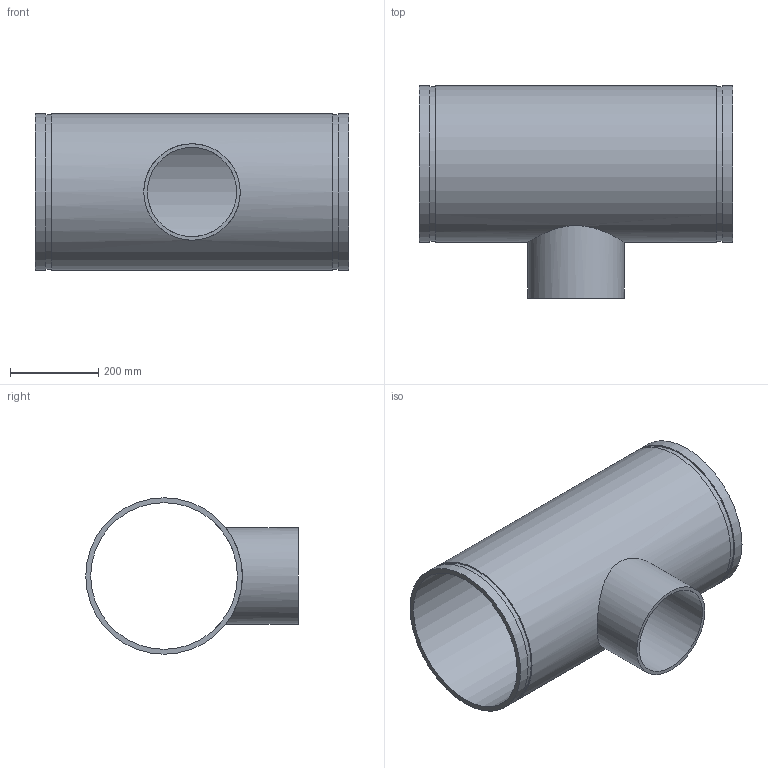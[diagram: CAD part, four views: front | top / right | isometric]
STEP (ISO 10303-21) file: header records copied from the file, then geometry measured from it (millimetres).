
FILE_DESCRIPTION(/* description */ ('VIC REDUCING TEE No 29T FFT (OGSxMPT)','CAx-IF Rec.Pracs.---Representation and Presentation of Product Manufacturing Information (PMI)---4.0---2014-10-13'),/* implementation_level */ '2;1');
FILE_NAME(/* name */ 'C:\Users\kkamble\AppData\Roaming\Autodesk\ApplicationPlugins\Back Up\Victaulic_IPS_Tee Reducing_No 29T FFT (OGSxMPT)\Victaulic_IPS_Tee Reducing_No 29T FFT (OGSxMPT)_14.0x08.0 (350x200).stp',/* time_stamp */ '2020-09-16T22:39:40+05:00',/* author */ ('CORINNE GRAY'),/* organization */ ('Victaulic'),/* preprocessor_version */ 'ST-DEVELOPER v17.2',/* originating_system */ 'Autodesk Inventor 2019',/* authorisation */ '');
FILE_SCHEMA (('AP242_MANAGED_MODEL_BASED_3D_ENGINEERING_MIM_LF { 1 0 10303 442 1 1 4 }'));
Length unit declared in the file: inch
Products named in the file (1): 29 FFT-14.0x08.0
Bounding box: 711.2 x 482.6 x 355.6 mm (x, y, z)
Volume: 8869217.1 mm3; surface area: 1705529 mm2
Topology: 1 solids, 1 shells, 15 faces, 32 edges, 24 vertices
Faces by surface type: cylinder 8, plane 7
Full cylindrical faces by diameter (mm): 202.717 x1, 219.075 x1, 333.4 x1, 350.037 x2, 355.6 x3
Entity records: 709 total; most frequent: CARTESIAN_POINT 221, DIRECTION 106, ORIENTED_EDGE 64, AXIS2_PLACEMENT_3D 49, EDGE_CURVE 32, EDGE_LOOP 24, VERTEX_POINT 24, CIRCLE 20
